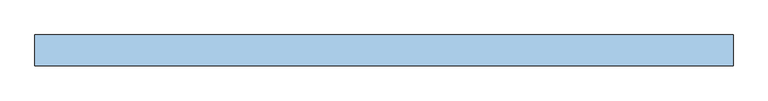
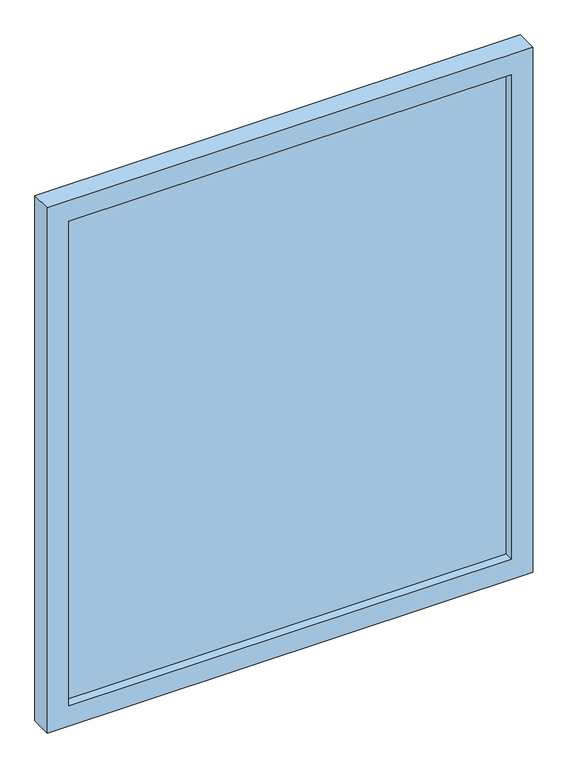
"""IFC4 building model written with IfcOpenShell, lengths in millimetres: window geometry, 固定窗-矩形- (1) : 135.5 * 155 cm."""

from ifc_helpers import new_model, si_unit, frame, origin, place, context, project, spatial, polyline, outline, extrude, source, transform, mapped, element, save


def window_5eaa62ca(model_context):
    return source(origin(), model_context, "Body", "SweptSolid", [
        extrude(outline(polyline([(2550.0, 677.5), (2550.0, -677.5), (1000.0, -677.5), (1000.0, 677.5), (2550.0, 677.5)]), holes=[polyline([(2490.0, 617.5), (1060.0, 617.5), (1060.0, -617.5), (2490.0, -617.5), (2490.0, 617.5)])]), frame((0.0, -60.0, 0.0), z_axis=(0.0, 1.0, 0.0), x_axis=(0.0, 0.0, 1.0)), (0.0, 0.0, 1.0), 60.0),
        extrude(outline(polyline([(-617.5, -25.0), (617.5, -25.0), (617.5, -35.0), (-617.5, -35.0), (-617.5, -25.0)])), frame((0.0, 0.0, 1060.0), z_axis=(0.0, 0.0, 1.0), x_axis=(1.0, 0.0, 0.0)), (0.0, 0.0, 1.0), 1430.0),
    ])


if __name__ == "__main__":
    model = new_model("IFC4")
    model_context = context("Model", 3, world=origin())
    ifc_project = project(units=[si_unit("LENGTHUNIT", "METRE", prefix="MILLI")], contexts=[model_context])
    site = spatial("IfcSite", under=ifc_project)
    building = spatial("IfcBuilding", under=site)
    placement = place(None, origin())
    window_shape = window_5eaa62ca(model_context)
    element("IfcWindow", 1, ObjectType="固定窗-矩形- (1) : 135.5 * 155 cm", at=placement, inside=building, context=model_context, shape_type="MappedRepresentation", body=[
        mapped(window_shape, transform((0.0, 0.0, 0.0), x_axis=(1.0, 0.0, 0.0), y_axis=(0.0, 1.0, 0.0), z_axis=(0.0, 0.0, 1.0))),
    ])
    save(model, "model.ifc")
